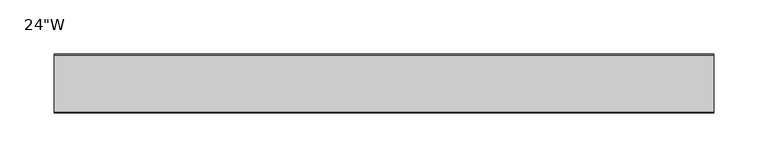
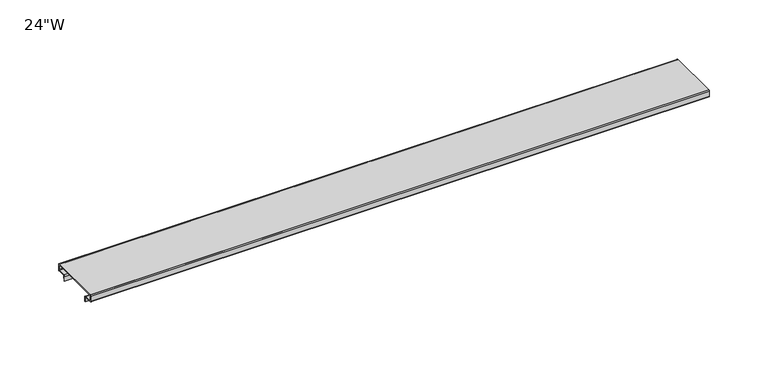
"""IFC4 building model written with IfcOpenShell, lengths in millimetres: furniture geometry."""

from ifc_helpers import new_model, si_unit, point, frame, frame_2d, origin, place, context, project, spatial, polyline, circle_curve, trimmed, segment, composite_curve, outline, extrude, source, transform, mapped, element, save


def furniture_94d4257f(model_context):
    return source(origin(), model_context, "Body", "SweptSolid", [
        extrude(outline(composite_curve([segment(trimmed(circle_curve(frame_2d((2.4497237, 9.9470946)), 0.5955237), [point((2.4497237, 10.5426182))], [point((1.8542, 9.9470946))], True, "CARTESIAN"), True, "CONTINUOUS"), segment(polyline([(1.8542, 9.9470946), (1.8542, 5.3708002)]), True, "CONTINUOUS"), segment(trimmed(circle_curve(frame_2d((2.3973822, 5.3708002)), 0.5431822), [point((1.8542, 5.3708002))], [point((2.3973822, 4.827618))], True, "CARTESIAN"), True, "CONTINUOUS"), segment(polyline([(2.3973822, 4.827618), (10.1070965, 4.827618)]), True, "CONTINUOUS"), segment(trimmed(circle_curve(frame_2d((10.1070965, 3.6880568)), 1.1395612), [point((10.1070965, 4.827618))], [point((11.2466577, 3.6880568))], False, "CARTESIAN"), True, "CONTINUOUS"), segment(polyline([(11.2466577, 3.6880568), (11.2466577, -1.2810822), (10.4648, -1.2810822), (10.4648, 3.5900342)]), True, "CONTINUOUS"), segment(trimmed(circle_curve(frame_2d((9.9237459, 3.5900342)), 0.5410541), [point((10.4648, 3.5900342))], [point((9.9271812, 4.1310774))], True, "CARTESIAN"), True, "CONTINUOUS"), segment(polyline([(9.9271812, 4.1310774), (2.2105641, 4.1800742)]), True, "CONTINUOUS"), segment(trimmed(circle_curve(frame_2d((2.21698, 5.1905339)), 1.01048), [point((2.2105641, 4.1800742))], [point((1.2065, 5.1905339))], False, "CARTESIAN"), True, "CONTINUOUS"), segment(polyline([(1.2065, 5.1905339), (1.2065, 10.153859)]), True, "CONTINUOUS"), segment(trimmed(circle_curve(frame_2d((2.2429588, 10.153859)), 1.0364588), [point((1.2065, 10.153859))], [point((2.2429588, 11.1903178))], False, "CARTESIAN"), True, "CONTINUOUS"), segment(polyline([(2.2429588, 11.1903178), (54.9025429, 11.1903178)]), True, "CONTINUOUS"), segment(trimmed(circle_curve(frame_2d((54.9025429, 10.1493596)), 1.0409582), [point((54.9025429, 11.1903178))], [point((55.9435012, 10.1493596))], False, "CARTESIAN"), True, "CONTINUOUS"), segment(polyline([(55.9435012, 10.1493596), (55.9435012, 5.1927443)]), True, "CONTINUOUS"), segment(trimmed(circle_curve(frame_2d((54.9306746, 5.1927443)), 1.0128265), [point((55.9435012, 5.1927443))], [point((54.9306746, 4.1799178))], False, "CARTESIAN"), True, "CONTINUOUS"), segment(polyline([(54.9306746, 4.1799178), (47.2463687, 4.1799178)]), True, "CONTINUOUS"), segment(trimmed(circle_curve(frame_2d((47.2463687, 3.6666936)), 0.5132242), [point((47.2463687, 4.1799178))], [point((46.7331686, 3.6716641))], True, "CARTESIAN"), True, "CONTINUOUS"), segment(polyline([(46.7331686, 3.6716641), (46.6852, -1.2810822), (45.8995796, -1.2810822), (45.8995796, 3.6413082)]), True, "CONTINUOUS"), segment(trimmed(circle_curve(frame_2d((47.0858895, 3.6413082)), 1.1863098), [point((45.8995796, 3.6413082))], [point((47.0858895, 4.827618))], False, "CARTESIAN"), True, "CONTINUOUS"), segment(polyline([(47.0858895, 4.827618), (54.7074007, 4.827618)]), True, "CONTINUOUS"), segment(trimmed(circle_curve(frame_2d((54.7074007, 5.3649738)), 0.5373558), [point((54.7074007, 4.827618))], [point((55.2447566, 5.3649738))], True, "CARTESIAN"), True, "CONTINUOUS"), segment(polyline([(55.2447566, 5.3649738), (55.2447566, 9.9453493)]), True, "CONTINUOUS"), segment(trimmed(circle_curve(frame_2d((54.6474876, 9.9453493)), 0.597269), [point((55.2447566, 9.9453493))], [point((54.6474876, 10.5426182))], True, "CARTESIAN"), True, "CONTINUOUS"), segment(polyline([(54.6474876, 10.5426182), (2.4497237, 10.5426182)]), True, "CONTINUOUS")], self_intersect=False)), frame((-304.8, 0.0, 0.0), z_axis=(1.0, 0.0, 0.0), x_axis=(0.0, 1.0, 0.0)), (0.0, 0.0, 1.0), 609.6),
    ])


if __name__ == "__main__":
    model = new_model("IFC4")
    model_context = context("Model", 3, world=origin())
    ifc_project = project(units=[si_unit("LENGTHUNIT", "METRE", prefix="MILLI")], contexts=[model_context])
    site = spatial("IfcSite", under=ifc_project)
    building = spatial("IfcBuilding", under=site)
    placement = place(None, origin())
    furniture_shape = furniture_94d4257f(model_context)
    element("IfcFurniture", 1, ObjectType="HON - Accelerate - Top Cap : 24\"W", at=placement, inside=building, context=model_context, shape_type="MappedRepresentation", body=[
        mapped(furniture_shape, transform((0.0, 0.0, 0.0), x_axis=(1.0, 0.0, 0.0), y_axis=(0.0, 1.0, 0.0), z_axis=(0.0, 0.0, 1.0))),
    ])
    save(model, "model.ifc")
